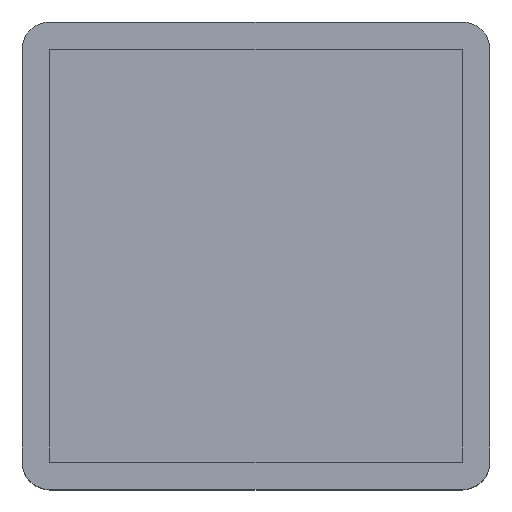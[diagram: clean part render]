
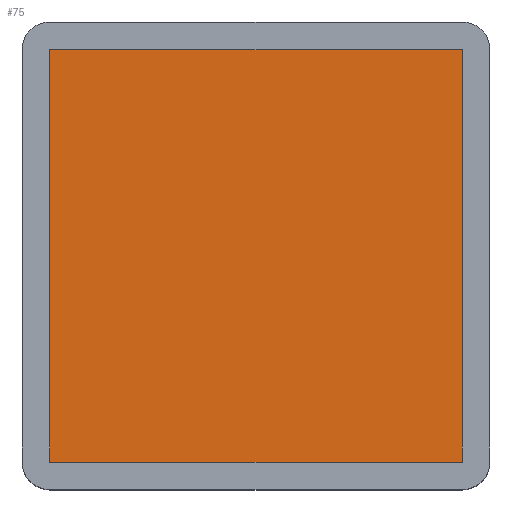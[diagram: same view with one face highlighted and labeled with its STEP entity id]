
A CAD part, top view. The second image highlights one B-rep face of the part: STEP entity #75.
In plain terms, the highlighted planar face has unit normal (0, 0, 1).
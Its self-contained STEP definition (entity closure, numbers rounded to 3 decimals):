
#75=ADVANCED_FACE('',(#153),#154,.T.);
#153=FACE_OUTER_BOUND('',#230,.T.);
#154=PLANE('',#231);
#230=EDGE_LOOP('',(#375,#376,#377,#378));
#231=AXIS2_PLACEMENT_3D('',#379,#380,#381);
#375=ORIENTED_EDGE('',*,*,#498,.T.);
#376=ORIENTED_EDGE('',*,*,#451,.T.);
#377=ORIENTED_EDGE('',*,*,#502,.T.);
#378=ORIENTED_EDGE('',*,*,#483,.T.);
#379=CARTESIAN_POINT('',(-2.0,-32.0,0.));
#380=DIRECTION('',(0.0,0.0,1.0));
#381=DIRECTION('',(1.0,0.0,0.0));
#451=EDGE_CURVE('',#526,#527,#528,.T.);
#483=EDGE_CURVE('',#579,#580,#581,.T.);
#498=EDGE_CURVE('',#580,#526,#597,.T.);
#502=EDGE_CURVE('',#527,#579,#601,.T.);
#526=VERTEX_POINT('',#629);
#527=VERTEX_POINT('',#630);
#528=LINE('',#631,#632);
#579=VERTEX_POINT('',#699);
#580=VERTEX_POINT('',#700);
#581=LINE('',#701,#702);
#597=LINE('',#722,#723);
#601=LINE('',#727,#728);
#629=CARTESIAN_POINT('',(0.,-30.0,0.));
#630=CARTESIAN_POINT('',(30.0,-30.0,0.));
#631=CARTESIAN_POINT('',(-2.0,-30.0,0.0));
#632=VECTOR('',#750,1.0);
#699=CARTESIAN_POINT('',(30.0,0.,0.));
#700=CARTESIAN_POINT('',(0.,0.,0.));
#701=CARTESIAN_POINT('',(32.0,0.,0.0));
#702=VECTOR('',#794,1.0);
#722=CARTESIAN_POINT('',(0.,2.0,0.0));
#723=VECTOR('',#814,1.0);
#727=CARTESIAN_POINT('',(30.0,-32.0,0.0));
#728=VECTOR('',#818,1.0);
#750=DIRECTION('',(1.0,0.0,0.0));
#794=DIRECTION('',(-1.0,0.0,0.0));
#814=DIRECTION('',(0.0,-1.0,0.0));
#818=DIRECTION('',(0.0,1.0,0.0));
